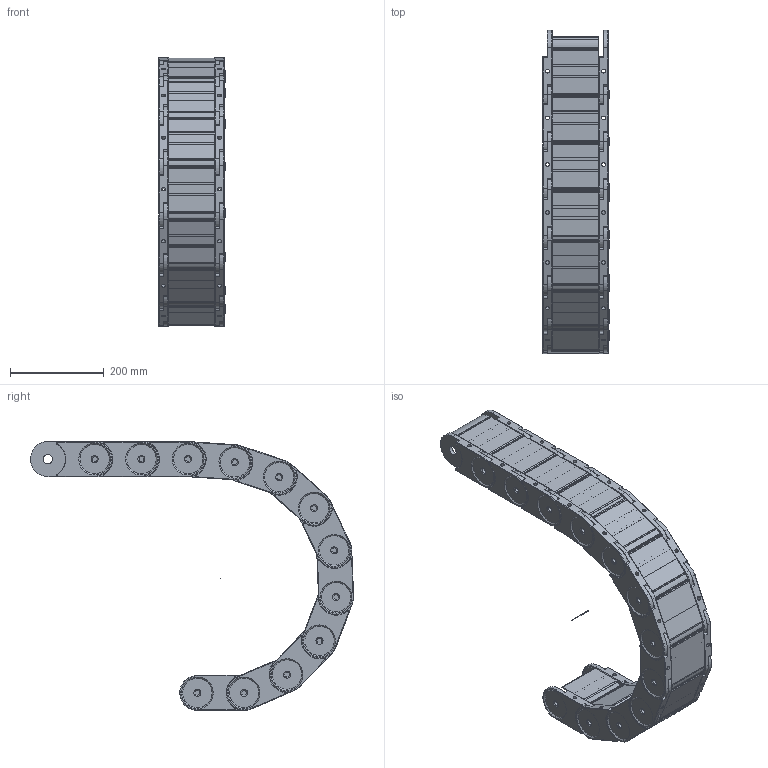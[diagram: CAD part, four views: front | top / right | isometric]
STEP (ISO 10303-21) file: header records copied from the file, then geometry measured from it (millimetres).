
FILE_DESCRIPTION((''),'2;1');
FILE_NAME('C:\Uebbing\TRACE PARTS\PLE\PLE 325\PLE 325 vereinfacht.stp','2013-05-29T15:06:00',('Uebbing'),(''),'Autodesk Inventor 10','Autodesk Inventor 10','');
FILE_SCHEMA(('AUTOMOTIVE_DESIGN { 1 0 10303 214 1 1 1 1 }'));
Length unit declared in the file: millimetre
Products named in the file (3): PLE 325 vereinfacht; Achse; PLE 325 Glied vereinfacht
Assembly tree (13 placements, depth 2):
  PLE 325 vereinfacht
    Achse
    PLE 325 Glied vereinfacht  x12
Bounding box: 142 x 691.28 x 575 mm (x, y, z)
Volume: 3708636.3 mm3; surface area: 1534303.5 mm2
Topology: 13 solids, 13 shells, 2355 faces, 6340 edges, 4047 vertices
Faces by surface type: cylinder 1129, plane 938, torus 240, cone 48
Full cylindrical faces by diameter (mm): 1 x1, 8 x24, 11 x24, 19.9 x24, 20.2 x24
Entity records: 6329 total; most frequent: DIRECTION 1174, CARTESIAN_POINT 1074, ORIENTED_EDGE 1022, EDGE_CURVE 511, AXIS2_PLACEMENT_3D 452, VERTEX_POINT 336, VECTOR 270, LINE 270
